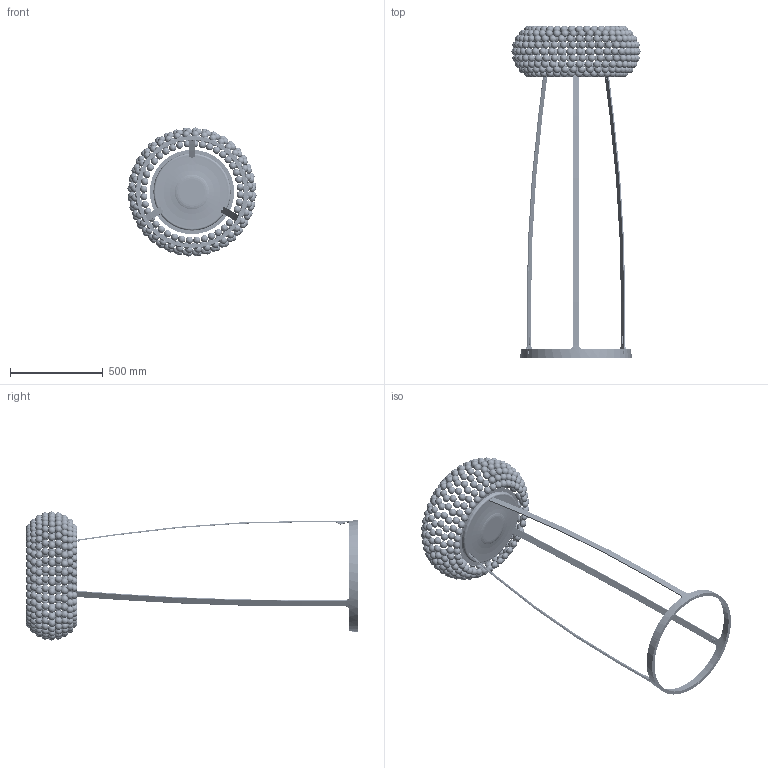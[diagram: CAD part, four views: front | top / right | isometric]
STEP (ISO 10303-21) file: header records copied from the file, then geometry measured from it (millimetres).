
FILE_DESCRIPTION (( 'STEP AP203' ), '1' );
FILE_NAME ('311_GRANDE_F_XX_3D.STEP', '2022-08-03T09:08:18', ( '' ), ( '' ), 'SwSTEP 2.0', 'SolidWorks 2022', '' );
FILE_SCHEMA (( 'CONFIG_CONTROL_DESIGN' ));
Length unit declared in the file: millimetre
Products named in the file (1): 311_GRANDE_F_XX_3D
Bounding box: 696.28 x 1790.11 x 696.28 mm (x, y, z)
Volume: 13337557.8 mm3; surface area: 3230259.6 mm2
Topology: 392 solids, 392 shells, 4324 faces, 9946 edges, 5705 vertices
Faces by surface type: sphere 1452, cylinder 1149, torus 822, plane 722, bspline 126, cone 53
Entity records: 118091 total; most frequent: CARTESIAN_POINT 26344, DIRECTION 22442, ORIENTED_EDGE 16996, AXIS2_PLACEMENT_3D 10265, EDGE_CURVE 8498, CIRCLE 6066, VERTEX_POINT 4985, EDGE_LOOP 4433
